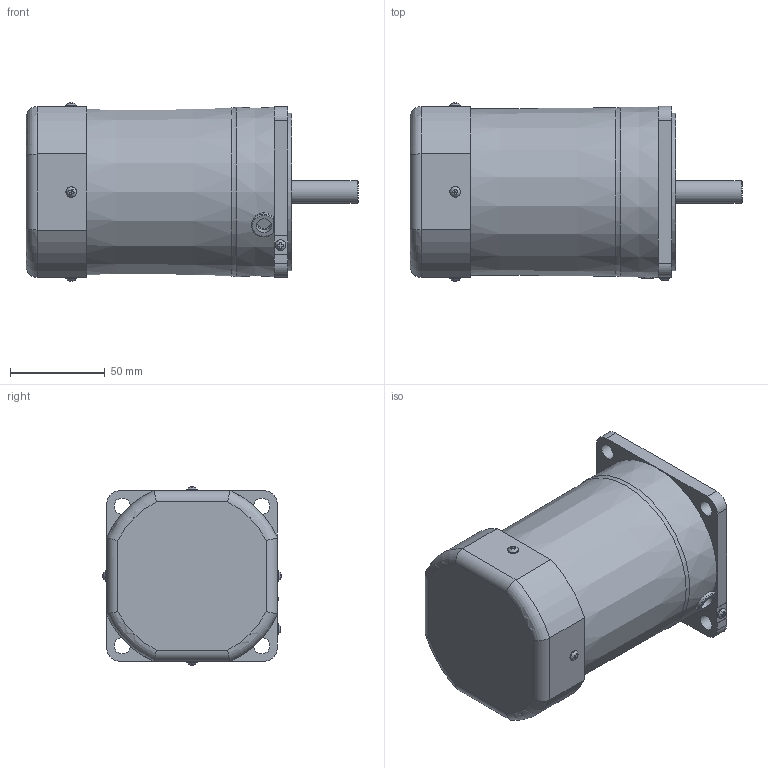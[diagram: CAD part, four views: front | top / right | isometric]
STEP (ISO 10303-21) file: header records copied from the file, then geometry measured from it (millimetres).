
FILE_DESCRIPTION(/* description */ (''),/* implementation_level */ '2;1');
FILE_NAME(/* name */ 'Y:\제품연구개발\3. 도면\3. 고객배포용\3D_홈페이지용\01-1 Standard AC SG Series\0704) 미주향 SG 도면\3D MOTOR\REVERSIBLE\SG9R90S\SG9R90S.stp',/* time_stamp */ '2023-11-23T10:41:30+09:00',/* author */ ('shyi1037'),/* organization */ (''),/* preprocessor_version */ 'ST-DEVELOPER v18.1',/* originating_system */ 'Autodesk Inventor 2022',/* authorisation */ '');
FILE_SCHEMA (('AUTOMOTIVE_DESIGN { 1 0 10303 214 3 1 1 }'));
Length unit declared in the file: millimetre
Products named in the file (5): S9I90G_; S9I90GㅁCE; S9_60_HOUSING A; FAN COVER; 6_CORD BUSH
Assembly tree (4 placements, depth 2):
  S9I90G_
    S9I90GㅁCE
    S9_60_HOUSING A
    FAN COVER
    6_CORD BUSH
Bounding box: 174.8 x 93.89 x 93.89 mm (x, y, z)
Volume: 967230.6 mm3; surface area: 90227 mm2
Topology: 4 solids, 8 shells, 208 faces, 523 edges, 344 vertices
Faces by surface type: plane 130, cylinder 49, torus 14, cone 10, bspline 5
Full cylindrical faces by diameter (mm): 3 x8, 3.5 x4, 5.6 x5, 8 x1, 8.5 x4, 10 x1, 12 x1, 40 x1, 83 x1, 86 x1
Entity records: 7042 total; most frequent: CARTESIAN_POINT 1875, ORIENTED_EDGE 1046, DIRECTION 1008, EDGE_CURVE 523, AXIS2_PLACEMENT_3D 364, VERTEX_POINT 344, LINE 280, VECTOR 280
